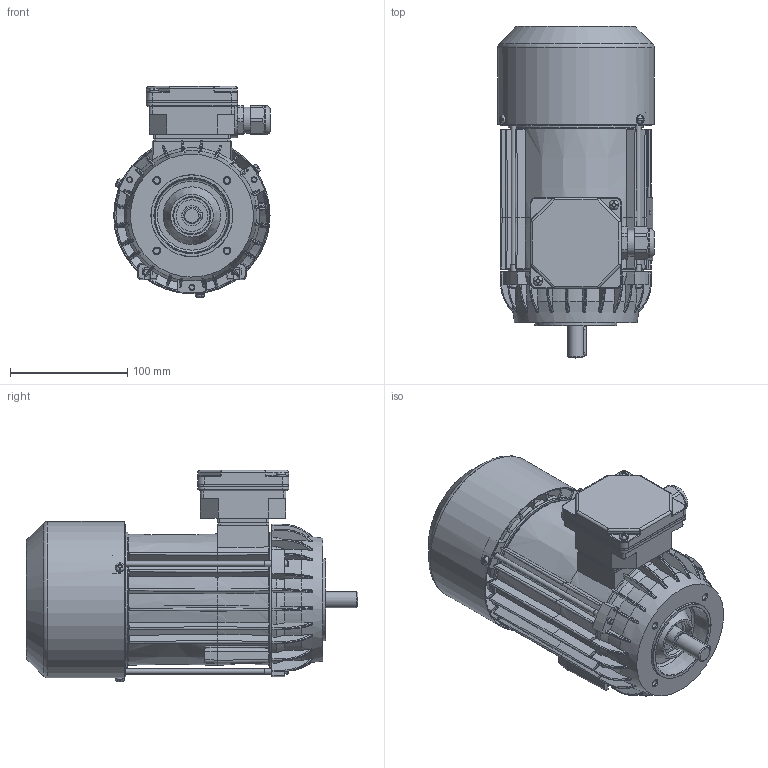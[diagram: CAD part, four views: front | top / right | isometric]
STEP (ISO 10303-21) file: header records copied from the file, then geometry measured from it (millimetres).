
FILE_DESCRIPTION(/* description */ ('Unknown'),/* implementation_level */ '2;1');
FILE_NAME(/* name */ '3SIEK71-8B2',/* time_stamp */ '2021-02-03T14:54:33+01:00',/* author */ ('Unknown'),/* organization */ ('Unknown'),/* preprocessor_version */ 'ST-DEVELOPER v16.7',/* originating_system */ 'Solid Edge',/* authorisation */ 'Unknown');
FILE_SCHEMA (('AUTOMOTIVE_DESIGN {1 0 10303 214 3 1 1}'));
Products named in the file (1): 3SIEK71-8B2
Bounding box: 133.8 x 283.48 x 180.57 mm (x, y, z)
Volume: 671431.7 mm3; surface area: 429405.1 mm2
Topology: 2 solids, 2 shells, 2590 faces, 7068 edges, 4500 vertices
Faces by surface type: plane 1023, cylinder 718, bspline 409, torus 228, cone 188, sphere 24
Full cylindrical faces by diameter (mm): 2 x2, 2.4 x2, 3.7 x4, 3.8 x4, 4 x2, 4.4 x3, 4.8 x2, 4.917 x4, 5 x8, 5.1 x3, 5.5 x3, 7 x1, 8 x6, 13.599 x1, 13.999 x1, 15.898 x1, 16.098 x1, 16.498 x1, 16.998 x2, 17.4 x2, 21.998 x2, 22.3 x1, 22.498 x1, 22.648 x1, 22.998 x1, 23.048 x1, 24.496 x4, 25 x1, 27 x1, 28 x1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
Entity records: 108882 total; most frequent: CARTESIAN_POINT 29951, ORIENTED_EDGE 13432, DIRECTION 11593, EDGE_CURVE 6716, AXIS2_PLACEMENT_3D 4433, VERTEX_POINT 4379, EDGE_LOOP 2991, FACE_BOUND 2991
